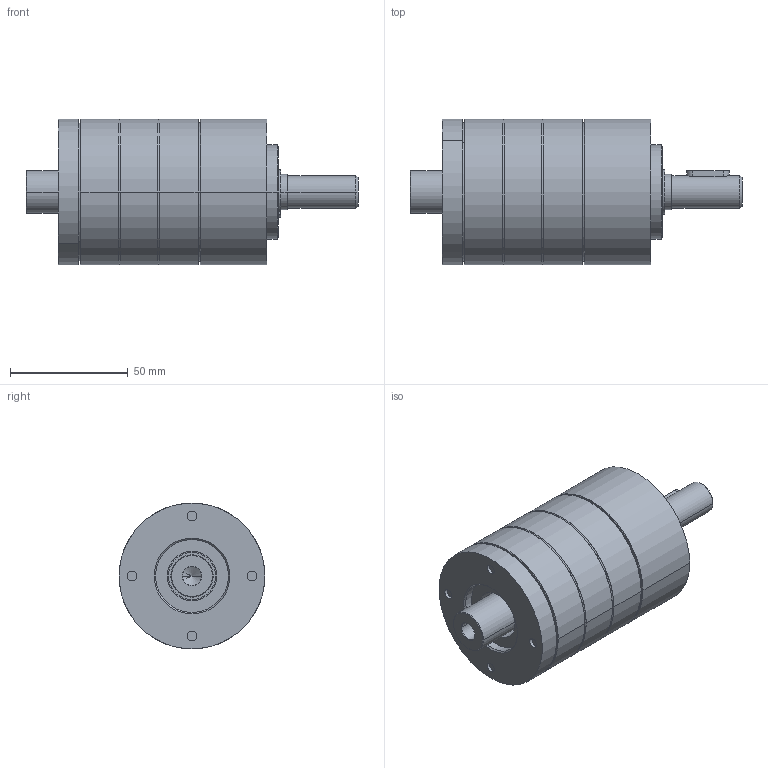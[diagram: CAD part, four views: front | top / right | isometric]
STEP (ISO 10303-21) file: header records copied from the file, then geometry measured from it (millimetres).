
FILE_DESCRIPTION((''),'2;1');
FILE_NAME('IMS62_PRO_3_STAGE_ASM','2024-09-02T13:12:06',('mhummel'),(''),'CREO PARAMETRIC BY PTC INC, 2020184','CREO PARAMETRIC BY PTC INC, 2020184','');
FILE_SCHEMA(('AUTOMOTIVE_DESIGN { 1 0 10303 214 1 1 1 1 }'));
Length unit declared in the file: millimetre
Products named in the file (14): IMS62_PRO_BEARING_FLANGE; IMS62_PRO_BALL_BEARING; IMS62_PRO_RING_GEAR_3_STAGE; IMS62_PRO_MOTOR_FLANGE; IMS62_PRO_SHIM_RING; IMS62_PRO_SHAFT_RAW_AF0; IMS62_PRO_SHAFT_ASM; IMS62_PRO_RETAINING_RING_A; IMS62_PRO_FEATHER_KEY; IMS62_PRO_THRUST_WASHER_1_STAGE; IMS62_PRO_SCREW_3_STAGE; IMS62_PRO_PINION_LONG; IMS62_PRO_PINION_SHORT; IMS62_PRO_3_STAGE_ASM
Assembly tree (17 placements, depth 3):
  IMS62_PRO_3_STAGE_ASM
    IMS62_PRO_BEARING_FLANGE
    IMS62_PRO_BALL_BEARING  x2
    IMS62_PRO_RING_GEAR_3_STAGE
    IMS62_PRO_MOTOR_FLANGE
    IMS62_PRO_SHIM_RING
    IMS62_PRO_SHAFT_ASM
      IMS62_PRO_SHAFT_RAW_AF0
    IMS62_PRO_RETAINING_RING_A
    IMS62_PRO_FEATHER_KEY
    IMS62_PRO_THRUST_WASHER_1_STAGE
    IMS62_PRO_SCREW_3_STAGE  x4
    IMS62_PRO_PINION_LONG
    IMS62_PRO_PINION_SHORT
Bounding box: 141.05 x 62 x 62 mm (x, y, z)
Volume: 201320.5 mm3; surface area: 81945.9 mm2
Topology: 20 solids, 22 shells, 417 faces, 887 edges, 528 vertices
Faces by surface type: cylinder 162, cone 98, plane 97, torus 60
Entity records: 11705 total; most frequent: DIRECTION 1815, CARTESIAN_POINT 1542, ORIENTED_EDGE 1378, AXIS2_PLACEMENT_3D 771, EDGE_CURVE 689, PRESENTATION_STYLE_ASSIGNMENT 545, STYLED_ITEM 518, CURVE_STYLE 505
